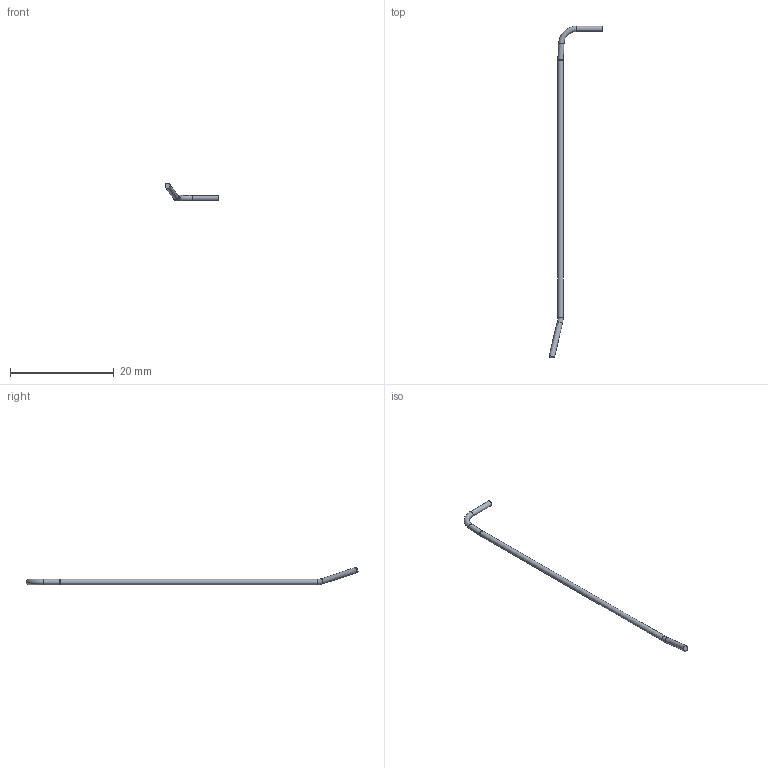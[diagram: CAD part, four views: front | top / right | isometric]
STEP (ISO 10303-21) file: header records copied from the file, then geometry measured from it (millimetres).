
FILE_DESCRIPTION(('Open CASCADE Model'),'2;1');
FILE_NAME('Open CASCADE Shape Model','2026-09-15T14:06:45',('Author'),( 'Open CASCADE'),'Open CASCADE STEP processor 7.7','Open CASCADE 7.7' ,'Unknown');
FILE_SCHEMA(('AUTOMOTIVE_DESIGN { 1 0 10303 214 1 1 1 1 }'));
Length unit declared in the file: millimetre
Products named in the file (1): J9_COMMON_BRANCH_2_OD1p05_R3
Bounding box: 10.41 x 64.07 x 3.37 mm (x, y, z)
Volume: 61.2 mm3; surface area: 234.8 mm2
Topology: 1 solids, 1 shells, 9 faces, 15 edges, 8 vertices
Faces by surface type: cylinder 4, torus 3, plane 2
Full cylindrical faces by diameter (mm): 1.05 x4
Entity records: 404 total; most frequent: CARTESIAN_POINT 76, DIRECTION 63, ORIENTED_EDGE 30, PCURVE 30, DEFINITIONAL_REPRESENTATION 30, AXIS2_PLACEMENT_3D 21, LINE 19, VECTOR 19
